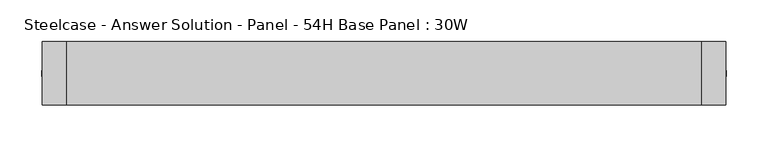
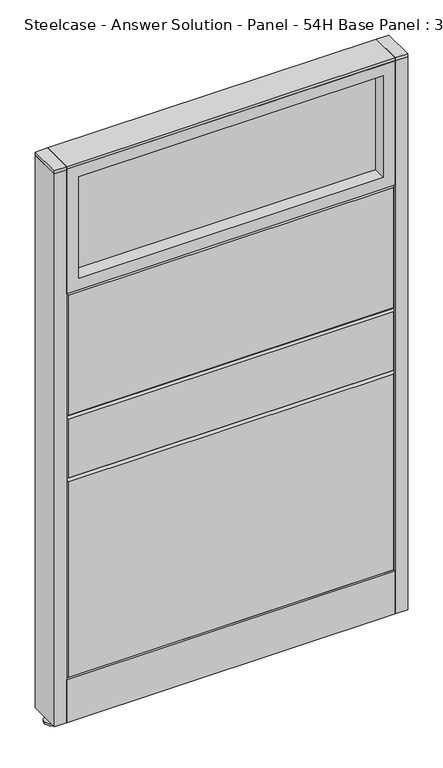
"""IFC4 building model written with IfcOpenShell, lengths in millimetres: furniture geometry, Steelcase - Answer Solution - Panel - 54H Base Panel : 30W."""

from ifc_helpers import new_model, si_unit, point, frame, frame_2d, origin, place, context, project, spatial, polyline, circle_curve, trimmed, segment, composite_curve, outline, extrude, faceted_brep, source, transform, mapped, element, save


def steelcase_answer_solution_panel_54h_base_panel_30w_aa5ab16a(model_context):
    return source(origin(), model_context, "Body", "SolidModel", [
        extrude(outline(composite_curve([segment(trimmed(circle_curve(frame_2d((395.224, 0.0320214)), 5.08), [point((400.304, 0.0320214))], [point((390.144, 0.0320214))], False, "CARTESIAN"), True, "CONTINUOUS"), segment(trimmed(circle_curve(frame_2d((395.224, 0.0320214)), 5.08), [point((390.144, 0.0320214))], [point((400.304, 0.0320214))], False, "CARTESIAN"), True, "CONTINUOUS")], self_intersect=False)), frame((0.0, 0.0, 5.0799671), z_axis=(0.0, 0.0, 1.0), x_axis=(1.0, 0.0, 0.0)), (0.0, 0.0, 1.0), 10.414),
        extrude(outline(composite_curve([segment(trimmed(circle_curve(frame_2d((395.224, 0.0320214)), 15.24), [point((410.464, 0.0320214))], [point((379.984, 0.0320214))], False, "CARTESIAN"), True, "CONTINUOUS"), segment(trimmed(circle_curve(frame_2d((395.224, 0.0320214)), 15.24), [point((379.984, 0.0320214))], [point((410.464, 0.0320214))], False, "CARTESIAN"), True, "CONTINUOUS")], self_intersect=False)), frame((0.0, 0.0, -3.29e-05), z_axis=(0.0, 0.0, 1.0), x_axis=(1.0, 0.0, 0.0)), (0.0, 0.0, 1.0), 5.08),
        extrude(outline(polyline([(409.575, 38.1320408), (409.575, -38.0679592), (381.0, -38.0679592), (381.0, 38.1320408), (409.575, 38.1320408)])), frame((0.0, 0.0, 1370.6348), z_axis=(0.0, 0.0, 1.0), x_axis=(1.0, 0.0, 0.0)), (0.0, 0.0, 1.0), 7.3151671),
        extrude(outline(polyline([(409.575, 38.1320408), (409.575, -38.0679592), (381.0, -38.0679592), (381.0, 38.1320408), (409.575, 38.1320408)])), frame((0.0, 0.0, 15.4939671), z_axis=(0.0, 0.0, 1.0), x_axis=(1.0, 0.0, 0.0)), (0.0, 0.0, 1.0), 1355.1408329),
        extrude(outline(composite_curve([segment(trimmed(circle_curve(frame_2d((-395.224, 0.0320214)), 5.08), [point((-400.304, 0.0320214))], [point((-390.144, 0.0320214))], False, "CARTESIAN"), True, "CONTINUOUS"), segment(trimmed(circle_curve(frame_2d((-395.224, 0.0320214)), 5.08), [point((-390.144, 0.0320214))], [point((-400.304, 0.0320214))], False, "CARTESIAN"), True, "CONTINUOUS")], self_intersect=False)), frame((0.0, 0.0, 5.0799671), z_axis=(0.0, 0.0, 1.0), x_axis=(1.0, 0.0, 0.0)), (0.0, 0.0, 1.0), 10.414),
        extrude(outline(composite_curve([segment(trimmed(circle_curve(frame_2d((-395.224, 0.0320214)), 15.24), [point((-410.464, 0.0320214))], [point((-379.984, 0.0320214))], False, "CARTESIAN"), True, "CONTINUOUS"), segment(trimmed(circle_curve(frame_2d((-395.224, 0.0320214)), 15.24), [point((-379.984, 0.0320214))], [point((-410.464, 0.0320214))], False, "CARTESIAN"), True, "CONTINUOUS")], self_intersect=False)), frame((0.0, 0.0, -3.29e-05), z_axis=(0.0, 0.0, 1.0), x_axis=(1.0, 0.0, 0.0)), (0.0, 0.0, 1.0), 5.08),
        extrude(outline(polyline([(-409.575, 38.1320408), (-381.0, 38.1320408), (-381.0, -38.0679592), (-409.575, -38.0679592), (-409.575, 38.1320408)])), frame((0.0, 0.0, 1370.6348), z_axis=(0.0, 0.0, 1.0), x_axis=(1.0, 0.0, 0.0)), (0.0, 0.0, 1.0), 7.3151671),
        extrude(outline(polyline([(-409.575, 38.1320408), (-381.0, 38.1320408), (-381.0, -38.0679592), (-409.575, -38.0679592), (-409.575, 38.1320408)])), frame((0.0, 0.0, 15.4939671), z_axis=(0.0, 0.0, 1.0), x_axis=(1.0, 0.0, 0.0)), (0.0, 0.0, 1.0), 1355.1408329),
        extrude(outline(polyline([(-353.06, 6.346049), (353.06, 6.346049), (353.06, -6.353951), (-353.06, -6.353951), (-353.06, 6.346049)])), frame((0.0, 0.0, 1094.74), z_axis=(0.0, 0.0, 1.0), x_axis=(1.0, 0.0, 0.0)), (0.0, 0.0, 1.0), 248.92),
        extrude(outline(polyline([(1371.6, -381.0), (1066.8, -381.0), (1066.8, 381.0), (1371.6, 381.0), (1371.6, -381.0)]), holes=[polyline([(1343.66, -353.06), (1343.66, 353.06), (1094.74, 353.06), (1094.74, -353.06), (1343.66, -353.06)])]), frame((0.0, -38.103951, 0.0), z_axis=(0.0, 1.0, 0.0), x_axis=(0.0, 0.0, 1.0)), (0.0, 0.0, 1.0), 76.2),
        faceted_brep([(-376.174, 38.1635011, 1061.974), (376.174, 38.1635011, 1061.974), (376.174, 38.1635011, 766.826), (-376.174, 38.1635011, 766.826), (-381.0, 33.3375011, 1066.8), (-381.0, 33.3375011, 762.0), (381.0, 33.3375011, 762.0), (381.0, 33.3375011, 1066.8)], [[[0, 1, 2, 3]], [[4, 5, 6, 7]], [[4, 7, 1, 0]], [[7, 6, 2, 1]], [[6, 5, 3, 2]], [[5, 4, 0, 3]]]),
        faceted_brep([(-376.174, 38.1635011, 757.174), (376.174, 38.1635011, 757.174), (376.174, 38.1635011, 614.426), (-376.174, 38.1635011, 614.426), (-381.0, 33.3375011, 762.0), (-381.0, 33.3375011, 609.6), (381.0, 33.3375011, 609.6), (381.0, 33.3375011, 762.0)], [[[0, 1, 2, 3]], [[4, 5, 6, 7]], [[4, 7, 1, 0]], [[7, 6, 2, 1]], [[6, 5, 3, 2]], [[5, 4, 0, 3]]]),
        faceted_brep([(-376.174, 38.1635011, 604.774), (376.174, 38.1635011, 604.774), (376.174, 38.1635011, 125.476), (-376.174, 38.1635011, 125.476), (-381.0, 33.3375011, 609.6), (-381.0, 33.3375011, 120.65), (381.0, 33.3375011, 120.65), (381.0, 33.3375011, 609.6)], [[[0, 1, 2, 3]], [[4, 5, 6, 7]], [[4, 7, 1, 0]], [[7, 6, 2, 1]], [[6, 5, 3, 2]], [[5, 4, 0, 3]]]),
        extrude(outline(polyline([(353.06, -6.346049), (-353.06, -6.346049), (-353.06, 6.353951), (353.06, 6.353951), (353.06, -6.346049)])), frame((0.0, 0.0, 1094.74), z_axis=(0.0, 0.0, 1.0), x_axis=(1.0, 0.0, 0.0)), (0.0, 0.0, 1.0), 248.92),
        extrude(outline(polyline([(1371.6, 381.0), (1371.6, -381.0), (1066.8, -381.0), (1066.8, 381.0), (1371.6, 381.0)]), holes=[polyline([(1343.66, 353.06), (1094.74, 353.06), (1094.74, -353.06), (1343.66, -353.06), (1343.66, 353.06)])]), frame((0.0, -38.096049, 0.0), z_axis=(0.0, 1.0, 0.0), x_axis=(0.0, 0.0, 1.0)), (0.0, 0.0, 1.0), 76.2),
        faceted_brep([(376.174, -38.1635011, 1061.974), (-376.174, -38.1635011, 1061.974), (-376.174, -38.1635011, 766.826), (376.174, -38.1635011, 766.826), (381.0, -33.3375011, 1066.8), (381.0, -33.3375011, 762.0), (-381.0, -33.3375011, 762.0), (-381.0, -33.3375011, 1066.8)], [[[0, 1, 2, 3]], [[4, 5, 6, 7]], [[4, 7, 1, 0]], [[7, 6, 2, 1]], [[6, 5, 3, 2]], [[5, 4, 0, 3]]]),
        faceted_brep([(376.174, -38.1635011, 757.174), (-376.174, -38.1635011, 757.174), (-376.174, -38.1635011, 614.426), (376.174, -38.1635011, 614.426), (381.0, -33.3375011, 762.0), (381.0, -33.3375011, 609.6), (-381.0, -33.3375011, 609.6), (-381.0, -33.3375011, 762.0)], [[[0, 1, 2, 3]], [[4, 5, 6, 7]], [[4, 7, 1, 0]], [[7, 6, 2, 1]], [[6, 5, 3, 2]], [[5, 4, 0, 3]]]),
        faceted_brep([(376.174, -38.1635011, 604.774), (-376.174, -38.1635011, 604.774), (-376.174, -38.1635011, 125.476), (376.174, -38.1635011, 125.476), (381.0, -33.3375011, 609.6), (381.0, -33.3375011, 120.65), (-381.0, -33.3375011, 120.65), (-381.0, -33.3375011, 609.6)], [[[0, 1, 2, 3]], [[4, 5, 6, 7]], [[4, 7, 1, 0]], [[7, 6, 2, 1]], [[6, 5, 3, 2]], [[5, 4, 0, 3]]]),
        extrude(outline(polyline([(381.0, 38.1000194), (381.0, -38.1000194), (-381.0, -38.1000194), (-381.0, 38.1000194), (381.0, 38.1000194)])), frame((0.0, 0.0, 1371.6), z_axis=(0.0, 0.0, 1.0), x_axis=(1.0, 0.0, 0.0)), (0.0, 0.0, 1.0), 6.35),
        extrude(outline(polyline([(25.4000011, 119.8575157), (25.4000011, 120.65), (38.1000194, 120.65), (38.1000194, 15.494), (37.3075215, 15.494), (37.3075215, 119.8575157), (25.4000011, 119.8575157)])), frame((-381.0, 0.0, 0.0), z_axis=(1.0, 0.0, 0.0), x_axis=(0.0, 1.0, 0.0)), (0.0, 0.0, 1.0), 762.0),
        extrude(outline(polyline([(-25.4000011, 119.8575157), (-37.3075215, 119.8575157), (-37.3075215, 15.494), (-38.1000194, 15.494), (-38.1000194, 120.65), (-25.4000011, 120.65), (-25.4000011, 119.8575157)])), frame((-381.0, 0.0, 0.0), z_axis=(1.0, 0.0, 0.0), x_axis=(0.0, 1.0, 0.0)), (0.0, 0.0, 1.0), 762.0),
    ])


if __name__ == "__main__":
    model = new_model("IFC4")
    model_context = context("Model", 3, world=origin())
    ifc_project = project(units=[si_unit("LENGTHUNIT", "METRE", prefix="MILLI")], contexts=[model_context])
    site = spatial("IfcSite", under=ifc_project)
    building = spatial("IfcBuilding", under=site)
    placement = place(None, origin())
    steelcase_answer_solution_panel_54h_base_panel_30w_shape = steelcase_answer_solution_panel_54h_base_panel_30w_aa5ab16a(model_context)
    element("IfcFurniture", 1, ObjectType="Steelcase - Answer Solution - Panel - 54H Base Panel : 30W", at=placement, inside=building, context=model_context, shape_type="MappedRepresentation", body=[
        mapped(steelcase_answer_solution_panel_54h_base_panel_30w_shape, transform((0.0, 0.0, 0.0), x_axis=(1.0, 0.0, 0.0), y_axis=(0.0, 1.0, 0.0), z_axis=(0.0, 0.0, 1.0))),
    ])
    save(model, "model.ifc")
